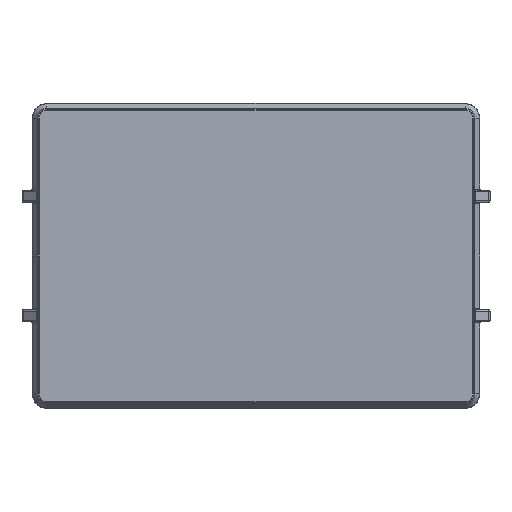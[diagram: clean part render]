
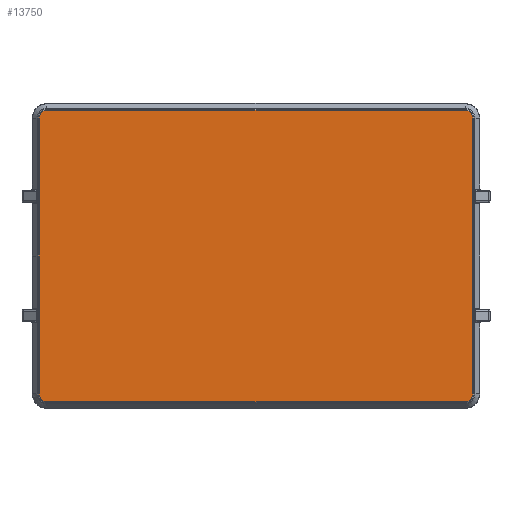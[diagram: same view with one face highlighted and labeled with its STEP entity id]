
A CAD part, front view. The second image highlights one B-rep face of the part: STEP entity #13750.
In plain terms, the highlighted planar face has unit normal (0, -1, 0).
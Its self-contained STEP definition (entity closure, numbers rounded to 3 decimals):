
#142 = FACE_OUTER_BOUND ( 'NONE', #13354, .T. ) ;
#409 = VERTEX_POINT ( 'NONE', #1128 ) ;
#534 = DIRECTION ( 'NONE',  ( 0., 0., -1. ) ) ;
#771 = DIRECTION ( 'NONE',  ( -1., 0., 0. ) ) ;
#912 = CARTESIAN_POINT ( 'NONE',  ( 88., -29., 58. ) ) ;
#949 = VERTEX_POINT ( 'NONE', #8814 ) ;
#1128 = CARTESIAN_POINT ( 'NONE',  ( 88., -29., -61.334 ) ) ;
#1273 = CIRCLE ( 'NONE', #10687, 3.334 ) ;
#1556 = VERTEX_POINT ( 'NONE', #8791 ) ;
#1664 = DIRECTION ( 'NONE',  ( 0., 0., -1. ) ) ;
#1766 = CARTESIAN_POINT ( 'NONE',  ( -88., -29., 61.334 ) ) ;
#2524 = CARTESIAN_POINT ( 'NONE',  ( -91.334, -29., 0. ) ) ;
#2725 = CARTESIAN_POINT ( 'NONE',  ( 91.334, -29., 58. ) ) ;
#2829 = CARTESIAN_POINT ( 'NONE',  ( -91.334, -29., 0. ) ) ;
#4155 = CARTESIAN_POINT ( 'NONE',  ( -88., -29., -61.334 ) ) ;
#4391 = CARTESIAN_POINT ( 'NONE',  ( -88., -29., 58. ) ) ;
#4478 = CARTESIAN_POINT ( 'NONE',  ( 88., -29., -58. ) ) ;
#4592 = EDGE_CURVE ( 'NONE', #1556, #10915, #6113, .T. ) ;
#4647 = VERTEX_POINT ( 'NONE', #4155 ) ;
#4762 = VECTOR ( 'NONE', #1664, 1000. ) ;
#4931 = CARTESIAN_POINT ( 'NONE',  ( -88., -29., -61.334 ) ) ;
#5297 = ORIENTED_EDGE ( 'NONE', *, *, #9270, .T. ) ;
#5830 = EDGE_CURVE ( 'NONE', #409, #1556, #14706, .T. ) ;
#5977 = CARTESIAN_POINT ( 'NONE',  ( 88., -29., 61.334 ) ) ;
#6041 = DIRECTION ( 'NONE',  ( 1., 0., 0. ) ) ;
#6113 = LINE ( 'NONE', #11271, #14182 ) ;
#6166 = CIRCLE ( 'NONE', #12627, 3.334 ) ;
#6177 = EDGE_CURVE ( 'NONE', #14370, #15072, #9954, .T. ) ;
#6328 = VECTOR ( 'NONE', #771, 1000. ) ;
#6448 = CARTESIAN_POINT ( 'NONE',  ( -91.334, -29., -58. ) ) ;
#6633 = EDGE_CURVE ( 'NONE', #10915, #14370, #1273, .T. ) ;
#6705 = DIRECTION ( 'NONE',  ( 0., 0., -1. ) ) ;
#7165 = ORIENTED_EDGE ( 'NONE', *, *, #7599, .T. ) ;
#7174 = EDGE_CURVE ( 'NONE', #7898, #4647, #15045, .T. ) ;
#7527 = ORIENTED_EDGE ( 'NONE', *, *, #11535, .T. ) ;
#7550 = DIRECTION ( 'NONE',  ( -1., 0., 0. ) ) ;
#7599 = EDGE_CURVE ( 'NONE', #4647, #409, #16606, .T. ) ;
#7647 = DIRECTION ( 'NONE',  ( 0., 1., 0. ) ) ;
#7898 = VERTEX_POINT ( 'NONE', #6448 ) ;
#7985 = VECTOR ( 'NONE', #13209, 1000. ) ;
#8307 = CARTESIAN_POINT ( 'NONE',  ( 88., -29., 61.334 ) ) ;
#8791 = CARTESIAN_POINT ( 'NONE',  ( 91.334, -29., -58. ) ) ;
#8814 = CARTESIAN_POINT ( 'NONE',  ( -91.334, -29., 0. ) ) ;
#9155 = CARTESIAN_POINT ( 'NONE',  ( -88., -29., -58. ) ) ;
#9246 = EDGE_CURVE ( 'NONE', #11764, #949, #9493, .T. ) ;
#9270 = EDGE_CURVE ( 'NONE', #949, #7898, #9660, .T. ) ;
#9493 = LINE ( 'NONE', #12182, #12335 ) ;
#9581 = AXIS2_PLACEMENT_3D ( 'NONE', #4478, #11915, #534 ) ;
#9660 = LINE ( 'NONE', #2829, #4762 ) ;
#9954 = LINE ( 'NONE', #5977, #6328 ) ;
#10019 = PLANE ( 'NONE',  #12076 ) ;
#10296 = ORIENTED_EDGE ( 'NONE', *, *, #6177, .T. ) ;
#10687 = AXIS2_PLACEMENT_3D ( 'NONE', #912, #13830, #6041 ) ;
#10915 = VERTEX_POINT ( 'NONE', #2725 ) ;
#10990 = DIRECTION ( 'NONE',  ( 0., -1., 0. ) ) ;
#11271 = CARTESIAN_POINT ( 'NONE',  ( 91.334, -29., -58. ) ) ;
#11535 = EDGE_CURVE ( 'NONE', #15072, #11764, #6166, .T. ) ;
#11728 = CARTESIAN_POINT ( 'NONE',  ( -91.334, -29., 58. ) ) ;
#11764 = VERTEX_POINT ( 'NONE', #11728 ) ;
#11915 = DIRECTION ( 'NONE',  ( 0., -1., 0. ) ) ;
#11965 = ORIENTED_EDGE ( 'NONE', *, *, #6633, .T. ) ;
#12076 = AXIS2_PLACEMENT_3D ( 'NONE', #2524, #7647, #15179 ) ;
#12182 = CARTESIAN_POINT ( 'NONE',  ( -91.334, -29., 58. ) ) ;
#12335 = VECTOR ( 'NONE', #6705, 1000. ) ;
#12627 = AXIS2_PLACEMENT_3D ( 'NONE', #4391, #10990, #13363 ) ;
#13156 = AXIS2_PLACEMENT_3D ( 'NONE', #9155, #15494, #7550 ) ;
#13209 = DIRECTION ( 'NONE',  ( 1., 0., 0. ) ) ;
#13354 = EDGE_LOOP ( 'NONE', ( #5297, #15475, #7165, #14705, #15282, #11965, #10296, #7527, #16620 ) ) ;
#13363 = DIRECTION ( 'NONE',  ( 0., 0., 1. ) ) ;
#13750 = ADVANCED_FACE ( 'NONE', ( #142 ), #10019, .F. ) ;
#13830 = DIRECTION ( 'NONE',  ( 0., -1., 0. ) ) ;
#14151 = DIRECTION ( 'NONE',  ( 0., 0., 1. ) ) ;
#14182 = VECTOR ( 'NONE', #14151, 1000. ) ;
#14370 = VERTEX_POINT ( 'NONE', #8307 ) ;
#14705 = ORIENTED_EDGE ( 'NONE', *, *, #5830, .T. ) ;
#14706 = CIRCLE ( 'NONE', #9581, 3.334 ) ;
#15045 = CIRCLE ( 'NONE', #13156, 3.334 ) ;
#15072 = VERTEX_POINT ( 'NONE', #1766 ) ;
#15179 = DIRECTION ( 'NONE',  ( -1., 0., 0. ) ) ;
#15282 = ORIENTED_EDGE ( 'NONE', *, *, #4592, .T. ) ;
#15475 = ORIENTED_EDGE ( 'NONE', *, *, #7174, .T. ) ;
#15494 = DIRECTION ( 'NONE',  ( 0., -1., 0. ) ) ;
#16606 = LINE ( 'NONE', #4931, #7985 ) ;
#16620 = ORIENTED_EDGE ( 'NONE', *, *, #9246, .T. ) ;
